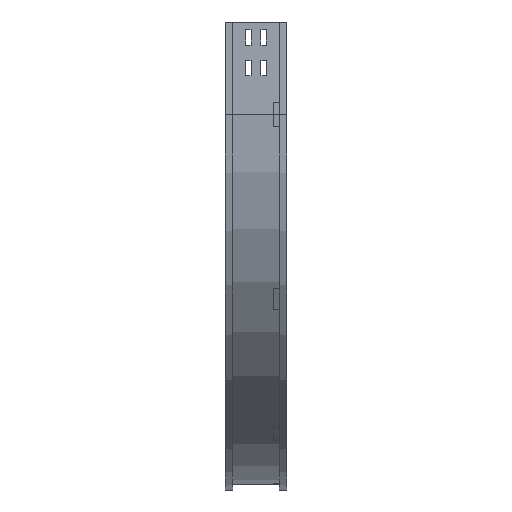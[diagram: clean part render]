
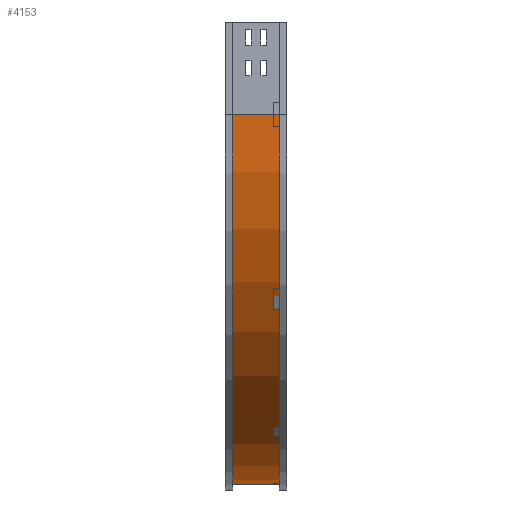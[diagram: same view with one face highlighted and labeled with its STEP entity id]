
A CAD part, left-side view. The second image highlights one B-rep face of the part: STEP entity #4153.
In plain terms, the highlighted cylindrical face has radius 600 mm (diameter 1200 mm), a partial arc.
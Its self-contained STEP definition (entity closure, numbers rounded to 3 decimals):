
#276 = CARTESIAN_POINT ( 'NONE',  ( 9., 12., -150. ) ) ;
#357 = EDGE_CURVE ( 'NONE', #3146, #3523, #1713, .T. ) ;
#387 = DIRECTION ( 'NONE',  ( 0., -1., 0. ) ) ;
#390 = AXIS2_PLACEMENT_3D ( 'NONE', #1066, #387, #2495 ) ;
#505 = DIRECTION ( 'NONE',  ( 0., -1., 0. ) ) ;
#585 = ORIENTED_EDGE ( 'NONE', *, *, #4287, .F. ) ;
#597 = ORIENTED_EDGE ( 'NONE', *, *, #1402, .T. ) ;
#606 = FACE_OUTER_BOUND ( 'NONE', #721, .T. ) ;
#721 = EDGE_LOOP ( 'NONE', ( #2945, #585, #1062, #597 ) ) ;
#1062 = ORIENTED_EDGE ( 'NONE', *, *, #2901, .T. ) ;
#1066 = CARTESIAN_POINT ( 'NONE',  ( 609., 88., -150. ) ) ;
#1193 = VECTOR ( 'NONE', #3525, 1000. ) ;
#1402 = EDGE_CURVE ( 'NONE', #4367, #3523, #4228, .T. ) ;
#1464 = CARTESIAN_POINT ( 'NONE',  ( 609., 88., -750. ) ) ;
#1549 = DIRECTION ( 'NONE',  ( 0., -1., 0. ) ) ;
#1682 = DIRECTION ( 'NONE',  ( 0., 0., -1. ) ) ;
#1713 = CIRCLE ( 'NONE', #3901, 600. ) ;
#2105 = LINE ( 'NONE', #3151, #2750 ) ;
#2166 = CARTESIAN_POINT ( 'NONE',  ( 609., 12., -750. ) ) ;
#2245 = CARTESIAN_POINT ( 'NONE',  ( 9., 88., -150. ) ) ;
#2295 = DIRECTION ( 'NONE',  ( -1., 0., 0. ) ) ;
#2365 = CARTESIAN_POINT ( 'NONE',  ( 609., 12., -750. ) ) ;
#2448 = CIRCLE ( 'NONE', #390, 600. ) ;
#2495 = DIRECTION ( 'NONE',  ( -1., 0., 0. ) ) ;
#2570 = CARTESIAN_POINT ( 'NONE',  ( 609., 12., -150. ) ) ;
#2715 = CARTESIAN_POINT ( 'NONE',  ( 609., 0., -150. ) ) ;
#2750 = VECTOR ( 'NONE', #505, 1000. ) ;
#2901 = EDGE_CURVE ( 'NONE', #3665, #4367, #2448, .T. ) ;
#2945 = ORIENTED_EDGE ( 'NONE', *, *, #357, .F. ) ;
#3146 = VERTEX_POINT ( 'NONE', #276 ) ;
#3151 = CARTESIAN_POINT ( 'NONE',  ( 9., 12., -150. ) ) ;
#3523 = VERTEX_POINT ( 'NONE', #2365 ) ;
#3525 = DIRECTION ( 'NONE',  ( 0., -1., 0. ) ) ;
#3665 = VERTEX_POINT ( 'NONE', #2245 ) ;
#3901 = AXIS2_PLACEMENT_3D ( 'NONE', #2570, #1549, #2295 ) ;
#4124 = DIRECTION ( 'NONE',  ( 0., -1., 0. ) ) ;
#4153 = ADVANCED_FACE ( 'NONE', ( #606 ), #4440, .T. ) ;
#4228 = LINE ( 'NONE', #2166, #1193 ) ;
#4287 = EDGE_CURVE ( 'NONE', #3665, #3146, #2105, .T. ) ;
#4293 = AXIS2_PLACEMENT_3D ( 'NONE', #2715, #4124, #1682 ) ;
#4367 = VERTEX_POINT ( 'NONE', #1464 ) ;
#4440 = CYLINDRICAL_SURFACE ( 'NONE', #4293, 600. ) ;
